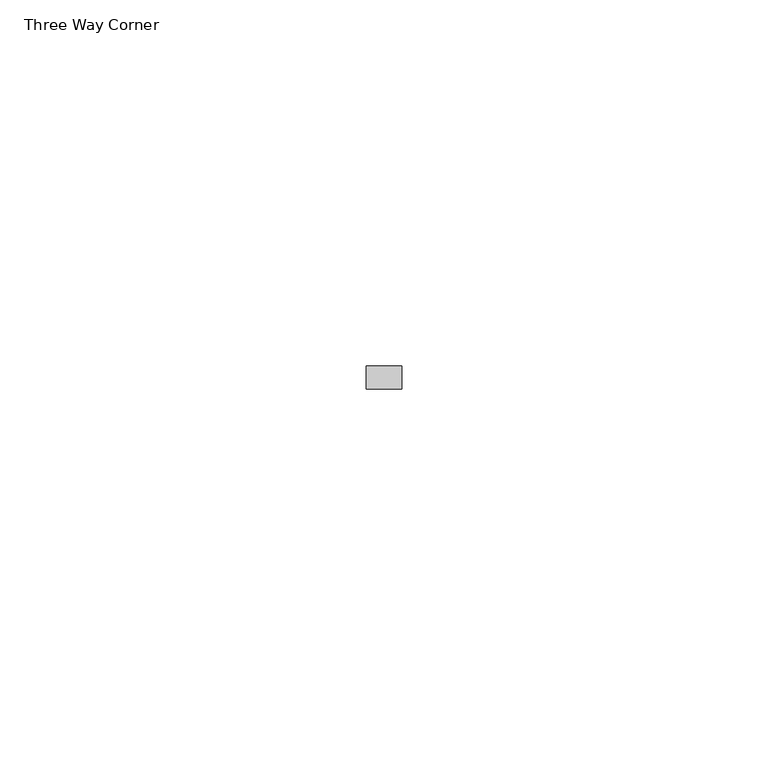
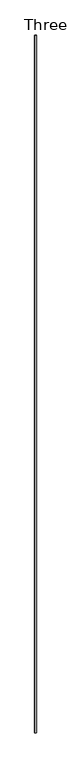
"""IFC4 building model written with IfcOpenShell, lengths in millimetres: proxy geometry, Connection-Corner-Teknion-OptosLP-Three_Way_FZCY3 : Three Way Corner."""

from ifc_helpers import new_model, si_unit, origin, origin_with_axes, place, context, project, spatial, polyline, outline, extrude, source, transform, mapped, element, save


def three_way_corner_01890268(model_context):
    return source(origin(), model_context, "Body", "SweptSolid", [
        extrude(outline(polyline([(-2.444766, 9.6878463), (2.444766, 9.6878463), (2.444766, 6.5128454), (-2.444766, 6.5128454), (-2.444766, 9.6878463)])), origin_with_axes(), (0.0, 0.0, 1.0), 3048.0),
    ])


if __name__ == "__main__":
    model = new_model("IFC4")
    model_context = context("Model", 3, world=origin())
    ifc_project = project(units=[si_unit("LENGTHUNIT", "METRE", prefix="MILLI")], contexts=[model_context])
    site = spatial("IfcSite", under=ifc_project)
    building = spatial("IfcBuilding", under=site)
    placement = place(None, origin())
    three_way_corner_shape = three_way_corner_01890268(model_context)
    element("IfcBuildingElementProxy", 1, Name="Connection-Corner-Teknion-OptosLP-Three_Way_FZCY3 : Three Way Corner", ObjectType="Connection-Corner-Teknion-OptosLP-Three_Way_FZCY3 : Three Way Corner", at=placement, inside=building, context=model_context, shape_type="MappedRepresentation", body=[
        mapped(three_way_corner_shape, transform((0.0, 0.0, 0.0), x_axis=(1.0, 0.0, 0.0), y_axis=(0.0, 1.0, 0.0), z_axis=(0.0, 0.0, 1.0))),
    ])
    save(model, "model.ifc")
